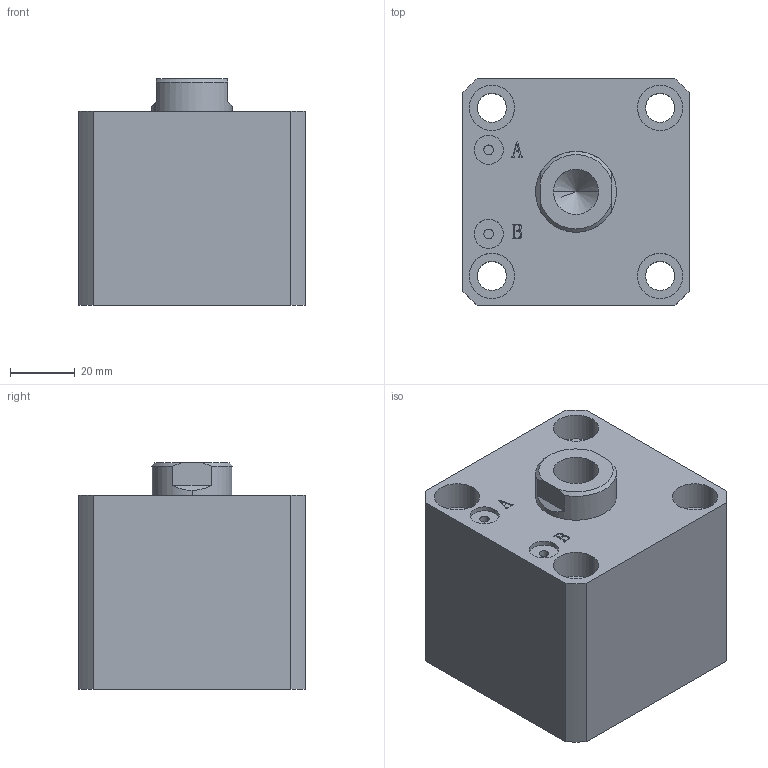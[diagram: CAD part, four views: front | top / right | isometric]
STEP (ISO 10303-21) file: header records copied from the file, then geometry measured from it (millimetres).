
FILE_DESCRIPTION (( 'STEP AP203' ), '1' );
FILE_NAME ('HTB-SDMA40-5N.STEP', '2019-10-07T11:49:33', ( '微软用户' ), ( '微软中国' ), 'SwSTEP 2.0', 'SolidWorks 2012', '' );
FILE_SCHEMA (( 'CONFIG_CONTROL_DESIGN' ));
Length unit declared in the file: millimetre
Products named in the file (3): HTB-SDMA40-5N; HTB-SDMA40-5N活塞杆; HTB-SDMA40-5掛极
Assembly tree (2 placements, depth 2):
  HTB-SDMA40-5N
    HTB-SDMA40-5掛极
    HTB-SDMA40-5N活塞杆
Bounding box: 70 x 70 x 70 mm (x, y, z)
Volume: 266678.3 mm3; surface area: 49304.1 mm2
Topology: 2 solids, 2 shells, 137 faces, 331 edges, 217 vertices
Faces by surface type: plane 65, cylinder 46, bspline 16, torus 6, cone 4
Entity records: 5074 total; most frequent: CARTESIAN_POINT 1580, ORIENTED_EDGE 658, DIRECTION 647, EDGE_CURVE 329, AXIS2_PLACEMENT_3D 232, VERTEX_POINT 217, LINE 183, VECTOR 183
